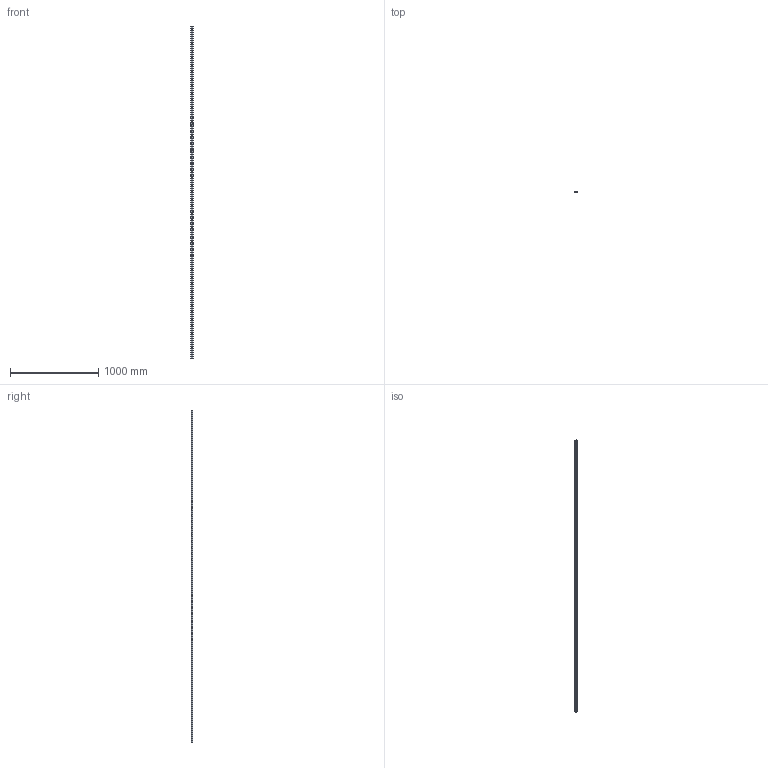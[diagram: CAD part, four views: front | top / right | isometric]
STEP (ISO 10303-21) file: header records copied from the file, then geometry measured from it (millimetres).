
FILE_DESCRIPTION(('STEP AP214'),'1');
FILE_NAME('rail_tex26-3760.stp','2019-03-08T08:29:51',('TraceParts'),('TraceParts S.A.'),'Spatial InterOp 3D',' ',' ');
FILE_SCHEMA(('automotive_design'));
Length unit declared in the file: millimetre
Products named in the file (1): rail_tex26-3760
Bounding box: 26.06 x 14 x 3760 mm (x, y, z)
Volume: 389255.9 mm3; surface area: 331398.3 mm2
Topology: 1 solids, 1 shells, 804 faces, 2082 edges, 1388 vertices
Faces by surface type: plane 566, bspline 132, cylinder 106
Entity records: 51143 total; most frequent: CARTESIAN_POINT 25479, ORIENTED_EDGE 4164, DIRECTION 3376, EDGE_CURVE 2082, LINE 1606, VECTOR 1606, VERTEX_POINT 1388, EDGE_LOOP 1006
